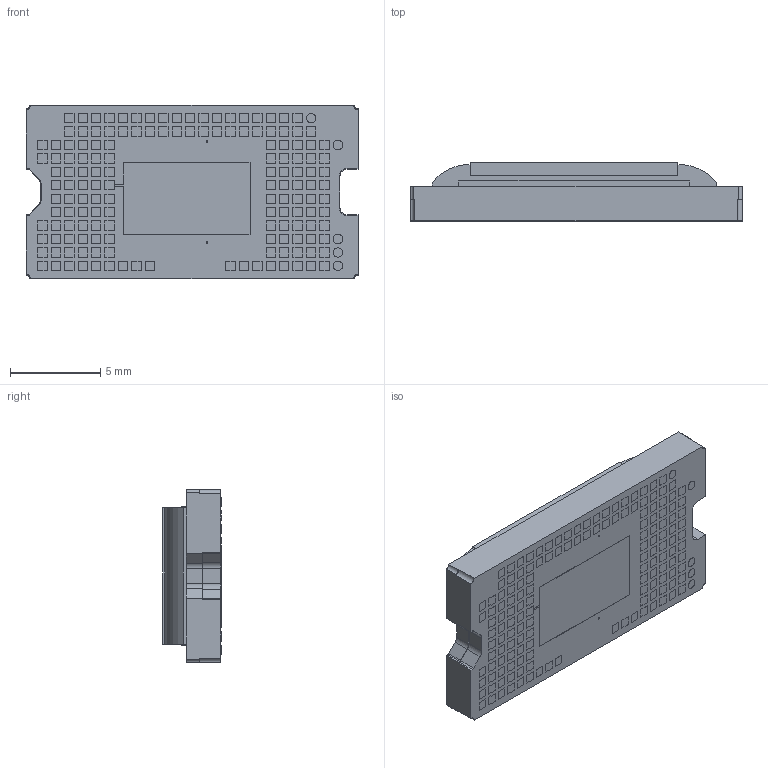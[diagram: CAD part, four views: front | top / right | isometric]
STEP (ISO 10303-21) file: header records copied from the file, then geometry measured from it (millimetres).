
FILE_DESCRIPTION (( 'STEP AP214' ), '1' );
FILE_NAME ('s323-DMD-Assy-wPads.STEP', '2024-10-02T15:59:20', ( '' ), ( '' ), 'SwSTEP 2.0', 'SolidWorks 2021', '' );
FILE_SCHEMA (( 'AUTOMOTIVE_DESIGN' ));
Length unit declared in the file: millimetre
Products named in the file (7): s323-DMD-Assy-wPads; s323-Pad-Pattern; Test-Elec-Pad-s323; Ceramic-s323; Window-s323; SymPad-s323; Elec-Pad-s323-DMD
Assembly tree (158 placements, depth 3):
  s323-DMD-Assy-wPads
    Ceramic-s323
    Window-s323
    s323-Pad-Pattern
      Elec-Pad-s323-DMD  x149
      Test-Elec-Pad-s323  x5
    SymPad-s323
Bounding box: 18.35 x 3.22 x 9.6 mm (x, y, z)
Volume: 446 mm3; surface area: 904.1 mm2
Topology: 157 solids, 157 shells, 1036 faces, 2138 edges, 1422 vertices
Faces by surface type: plane 996, cylinder 40
Entity records: 5923 total; most frequent: DIRECTION 990, CARTESIAN_POINT 854, ORIENTED_EDGE 676, AXIS2_PLACEMENT_3D 358, EDGE_CURVE 338, VECTOR 274, LINE 274, VERTEX_POINT 222
